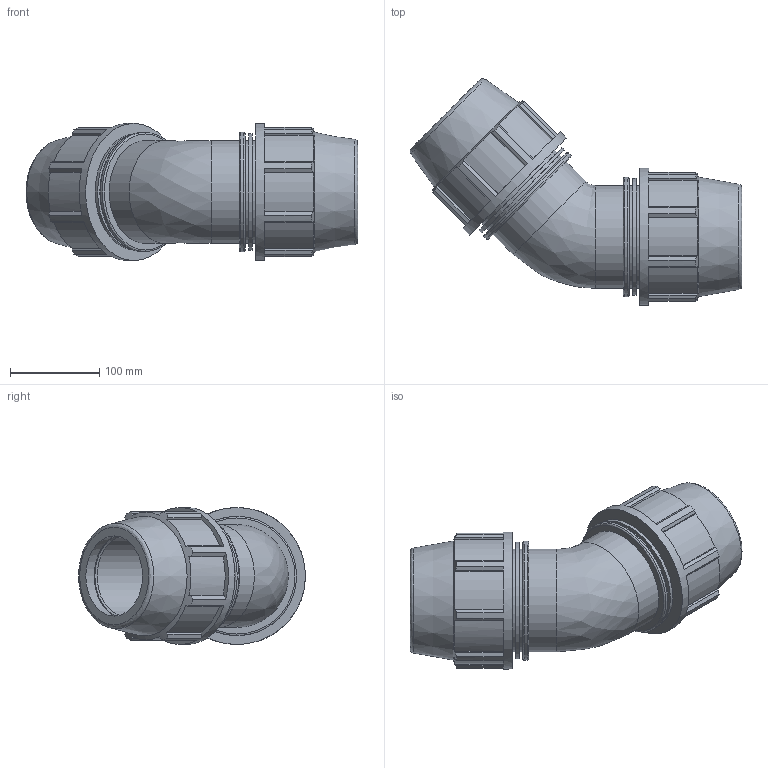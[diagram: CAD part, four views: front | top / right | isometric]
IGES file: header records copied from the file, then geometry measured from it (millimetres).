
Global section: file name: 0706060900A.ipt; native system: Autodesk Inventor 2015; preprocessor: unknown; author: Кирилл,,11,0; organization: 20170224.180708; date: 20170608.042456; units: millimetre
Bounding box: 372.88 x 254.88 x 154 mm (x, y, z)
Volume: 2680869.7 mm3; surface area: 332257.3 mm2
Topology: 1 solids, 1 shells, 140 faces, 388 edges, 262 vertices
Faces by surface type: plane 94, cylinder 28, revolution 14, cone 4
Full cylindrical faces by diameter (mm): 115.5 x6, 131.3 x2, 133.98 x2, 154 x2
